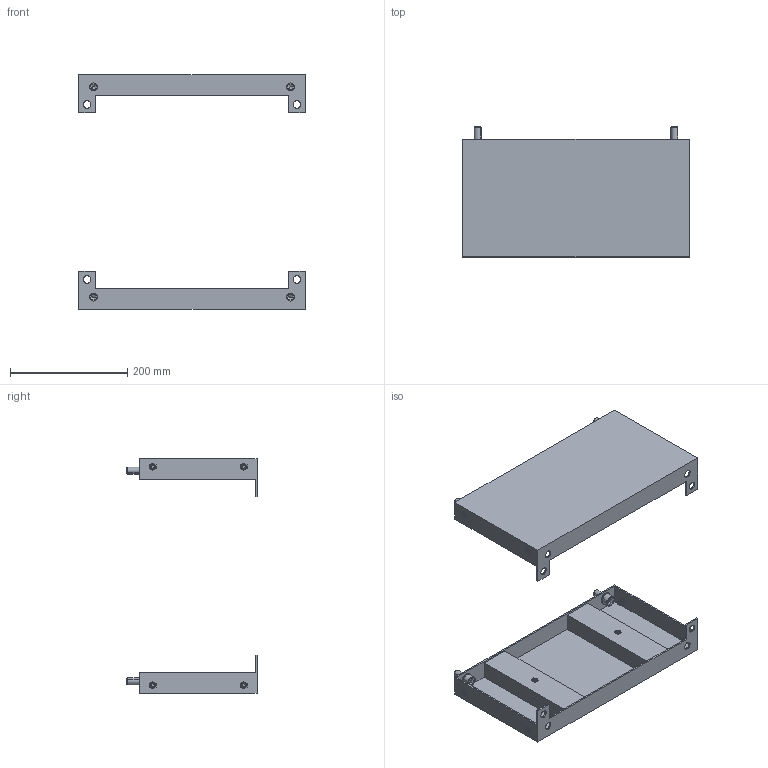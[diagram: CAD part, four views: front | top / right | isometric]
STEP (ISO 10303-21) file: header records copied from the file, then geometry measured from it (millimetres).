
FILE_DESCRIPTION (( 'STEP AP203' ), '1' );
FILE_NAME ('R6PLB45-200 H=400 SIMPLE.STEP', '2026-07-22T11:06:36', ( '' ), ( '' ), 'SwSTEP 2.0', 'SolidWorks 2022', '' );
FILE_SCHEMA (( 'CONFIG_CONTROL_DESIGN' ));
Length unit declared in the file: millimetre
Products named in the file (8): РГМЦ.RB.3309.00.00.0 СБ SIMPLE 04-07_-07; M6 MGS-MPO-0635_straight; РГМЦ.RB.3309.00.01.0 simple_-07; M12x25 DIN 912 HX cl.8,8 Zinc_stright; РГМЦ.RB.3309.00.02.0 simple_-01; 12 DIN 6798 A Zinc; R6PLB45-200 H=400 SIMPLE; M6 MGS-MPO-0635_thread
Assembly tree (19 placements, depth 3):
  R6PLB45-200 H=400 SIMPLE
    РГМЦ.RB.3309.00.00.0 СБ SIMPLE 04-07_-07  x2
      РГМЦ.RB.3309.00.01.0 simple_-07
      M6 MGS-MPO-0635_thread
      РГМЦ.RB.3309.00.02.0 simple_-01
      M6 MGS-MPO-0635_straight
    12 DIN 6798 A Zinc  x4
    M12x25 DIN 912 HX cl.8,8 Zinc_stright  x4
Bounding box: 386.7 x 221.5 x 400 mm (x, y, z)
Volume: 807326.6 mm3; surface area: 660285.8 mm2
Topology: 26 solids, 26 shells, 1468 faces, 3828 edges, 2188 vertices
Faces by surface type: plane 556, cylinder 544, bspline 152, sphere 144, cone 40, torus 32
Entity records: 13372 total; most frequent: CARTESIAN_POINT 5039, ORIENTED_EDGE 1540, DIRECTION 1409, EDGE_CURVE 770, VERTEX_POINT 482, AXIS2_PLACEMENT_3D 473, VECTOR 463, LINE 463
